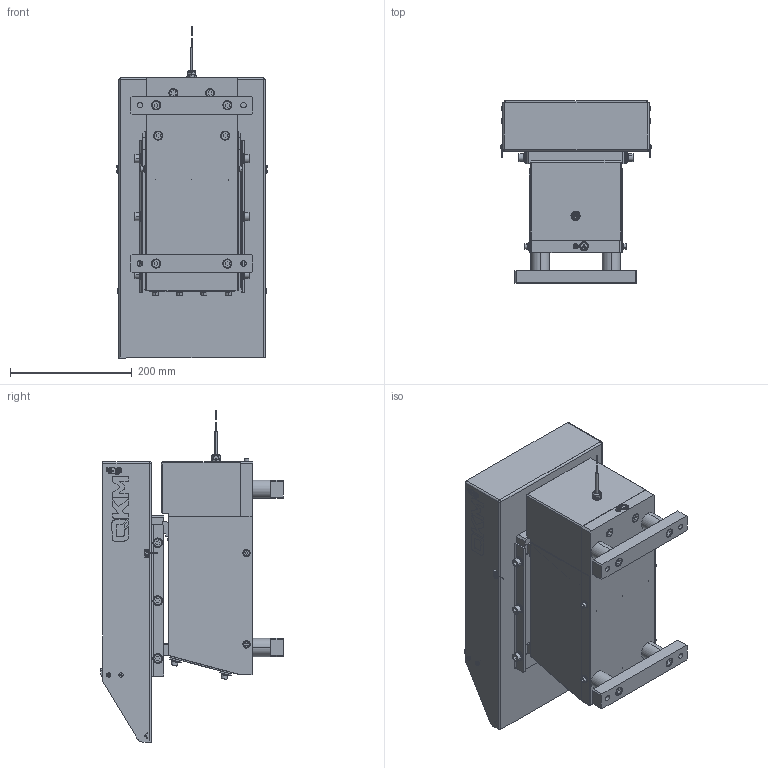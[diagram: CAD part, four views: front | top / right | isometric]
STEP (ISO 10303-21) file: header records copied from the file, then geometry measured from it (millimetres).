
FILE_DESCRIPTION (( 'STEP AP214' ), '1' );
FILE_NAME ('3-124-000099,储料仓,标准,QFA-4L,包装成品.STEP', '2025-07-17T05:45:05', ( '' ), ( '' ), 'SwSTEP 2.0', 'SolidWorks 2017', '' );
FILE_SCHEMA (( 'AUTOMOTIVE_DESIGN' ));
Length unit declared in the file: millimetre
Products named in the file (1): 3-124-000099,储料仓,标准,QFA-4L,包装成品
Bounding box: 248.6 x 299.12 x 545.08 mm (x, y, z)
Surface area: 1269091.8 mm2 (no closed solid volume)
Topology: 0 solids, 155 shells, 3968 faces, 9774 edges, 6293 vertices
Faces by surface type: plane 1715, cylinder 1232, bspline 638, cone 345, torus 34, sphere 4
Entity records: 168989 total; most frequent: CARTESIAN_POINT 32315, ORIENTED_EDGE 19392, DIRECTION 17654, EDGE_CURVE 9696, VERTEX_POINT 6293, AXIS2_PLACEMENT_3D 6136, VECTOR 5382, LINE 5382
